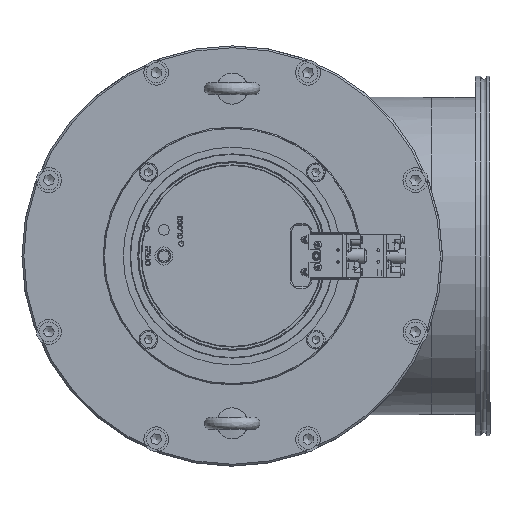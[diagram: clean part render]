
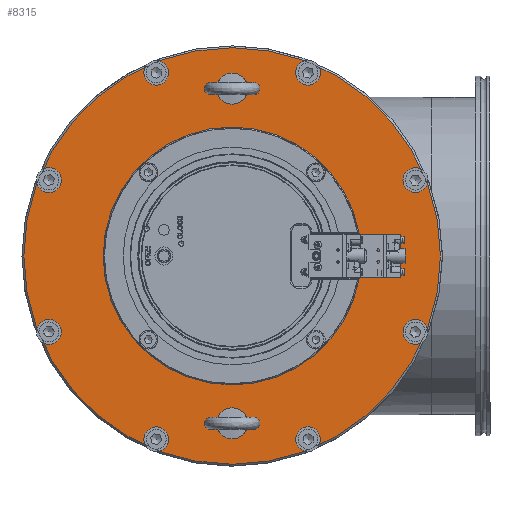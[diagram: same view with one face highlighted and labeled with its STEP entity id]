
A CAD part, left-side view. The second image highlights one B-rep face of the part: STEP entity #8315.
In plain terms, the highlighted planar face has unit normal (-1, 0, 0) as drawn and (0, 0, -1) by its records, which use the part's own axes.
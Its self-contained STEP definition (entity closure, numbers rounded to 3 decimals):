
#7593=FACE_BOUND('',#9950,.T.);
#7594=FACE_BOUND('',#9951,.T.);
#7595=FACE_BOUND('',#9952,.T.);
#7596=FACE_BOUND('',#9953,.T.);
#7597=FACE_BOUND('',#9954,.T.);
#7598=FACE_BOUND('',#9955,.T.);
#7599=FACE_BOUND('',#9956,.T.);
#7600=FACE_BOUND('',#9957,.T.);
#7601=FACE_BOUND('',#9958,.T.);
#7602=FACE_BOUND('',#9959,.T.);
#7603=FACE_BOUND('',#9960,.T.);
#7604=FACE_BOUND('',#9961,.T.);
#7605=FACE_BOUND('',#9962,.T.);
#7606=FACE_BOUND('',#9963,.T.);
#7607=FACE_BOUND('',#9964,.T.);
#7608=FACE_BOUND('',#9965,.T.);
#8315=ADVANCED_FACE('BCT_REF_50658',(#7593,#7594,#7595,#7596,#7597,#7598,
#7599,#7600,#7601,#7602,#7603,#7604,#7605,#7606,#7607,#7608),#8990,.F.);
#8990=PLANE('',#16966);
#9950=EDGE_LOOP('',(#11228));
#9951=EDGE_LOOP('',(#11229));
#9952=EDGE_LOOP('',(#11230));
#9953=EDGE_LOOP('',(#11231));
#9954=EDGE_LOOP('',(#11232));
#9955=EDGE_LOOP('',(#11233));
#9956=EDGE_LOOP('',(#11234));
#9957=EDGE_LOOP('',(#11235));
#9958=EDGE_LOOP('',(#11236));
#9959=EDGE_LOOP('',(#11237));
#9960=EDGE_LOOP('',(#11238));
#9961=EDGE_LOOP('',(#11239));
#9962=EDGE_LOOP('',(#11240));
#9963=EDGE_LOOP('',(#11241));
#9964=EDGE_LOOP('',(#11242));
#9965=EDGE_LOOP('',(#11243));
#11228=ORIENTED_EDGE('',*,*,#14900,.T.);
#11229=ORIENTED_EDGE('',*,*,#14901,.T.);
#11230=ORIENTED_EDGE('',*,*,#14902,.T.);
#11231=ORIENTED_EDGE('',*,*,#14903,.T.);
#11232=ORIENTED_EDGE('',*,*,#14904,.T.);
#11233=ORIENTED_EDGE('',*,*,#14905,.T.);
#11234=ORIENTED_EDGE('',*,*,#14906,.T.);
#11235=ORIENTED_EDGE('',*,*,#14907,.T.);
#11236=ORIENTED_EDGE('',*,*,#14908,.T.);
#11237=ORIENTED_EDGE('',*,*,#14909,.T.);
#11238=ORIENTED_EDGE('',*,*,#14910,.T.);
#11239=ORIENTED_EDGE('',*,*,#14911,.T.);
#11240=ORIENTED_EDGE('',*,*,#14912,.T.);
#11241=ORIENTED_EDGE('',*,*,#14913,.T.);
#11242=ORIENTED_EDGE('',*,*,#14914,.T.);
#11243=ORIENTED_EDGE('',*,*,#14915,.T.);
#13830=VERTEX_POINT('',#22994);
#13831=VERTEX_POINT('',#22996);
#13832=VERTEX_POINT('',#22998);
#13833=VERTEX_POINT('',#23000);
#13834=VERTEX_POINT('',#23002);
#13835=VERTEX_POINT('',#23004);
#13836=VERTEX_POINT('',#23006);
#13837=VERTEX_POINT('',#23008);
#13838=VERTEX_POINT('',#23010);
#13839=VERTEX_POINT('',#23012);
#13840=VERTEX_POINT('',#23014);
#13841=VERTEX_POINT('',#23016);
#13842=VERTEX_POINT('',#23018);
#13843=VERTEX_POINT('',#23020);
#13844=VERTEX_POINT('',#23022);
#13845=VERTEX_POINT('',#23024);
#14900=EDGE_CURVE('BCT_REF_75933',#13830,#13830,#16237,.T.);
#14901=EDGE_CURVE('BCT_REF_50675',#13831,#13831,#16238,.T.);
#14902=EDGE_CURVE('BCT_REF_50672',#13832,#13832,#16239,.T.);
#14903=EDGE_CURVE('BCT_REF_50642',#13833,#13833,#16240,.T.);
#14904=EDGE_CURVE('',#13834,#13834,#16241,.T.);
#14905=EDGE_CURVE('BCT_REF_50687',#13835,#13835,#16242,.T.);
#14906=EDGE_CURVE('',#13836,#13836,#16243,.T.);
#14907=EDGE_CURVE('',#13837,#13837,#16244,.T.);
#14908=EDGE_CURVE('',#13838,#13838,#16245,.T.);
#14909=EDGE_CURVE('',#13839,#13839,#16246,.T.);
#14910=EDGE_CURVE('',#13840,#13840,#16247,.T.);
#14911=EDGE_CURVE('',#13841,#13841,#16248,.T.);
#14912=EDGE_CURVE('',#13842,#13842,#16249,.T.);
#14913=EDGE_CURVE('',#13843,#13843,#16250,.T.);
#14914=EDGE_CURVE('',#13844,#13844,#16251,.T.);
#14915=EDGE_CURVE('',#13845,#13845,#16252,.T.);
#16237=CIRCLE('',#16950,168.);
#16238=CIRCLE('',#16951,88.75);
#16239=CIRCLE('',#16952,4.25);
#16240=CIRCLE('',#16953,4.25);
#16241=CIRCLE('',#16954,4.25);
#16242=CIRCLE('',#16955,4.25);
#16243=CIRCLE('',#16956,4.25);
#16244=CIRCLE('',#16957,4.25);
#16245=CIRCLE('',#16958,5.5);
#16246=CIRCLE('',#16959,5.5);
#16247=CIRCLE('',#16960,5.5);
#16248=CIRCLE('',#16961,5.5);
#16249=CIRCLE('',#16962,5.5);
#16250=CIRCLE('',#16963,5.5);
#16251=CIRCLE('',#16964,5.5);
#16252=CIRCLE('',#16965,5.5);
#16950=AXIS2_PLACEMENT_3D('',#22993,#18580,#18581);
#16951=AXIS2_PLACEMENT_3D('',#22995,#18582,#18583);
#16952=AXIS2_PLACEMENT_3D('',#22997,#18584,#18585);
#16953=AXIS2_PLACEMENT_3D('',#22999,#18586,#18587);
#16954=AXIS2_PLACEMENT_3D('',#23001,#18588,#18589);
#16955=AXIS2_PLACEMENT_3D('',#23003,#18590,#18591);
#16956=AXIS2_PLACEMENT_3D('',#23005,#18592,#18593);
#16957=AXIS2_PLACEMENT_3D('',#23007,#18594,#18595);
#16958=AXIS2_PLACEMENT_3D('',#23009,#18596,#18597);
#16959=AXIS2_PLACEMENT_3D('',#23011,#18598,#18599);
#16960=AXIS2_PLACEMENT_3D('',#23013,#18600,#18601);
#16961=AXIS2_PLACEMENT_3D('',#23015,#18602,#18603);
#16962=AXIS2_PLACEMENT_3D('',#23017,#18604,#18605);
#16963=AXIS2_PLACEMENT_3D('',#23019,#18606,#18607);
#16964=AXIS2_PLACEMENT_3D('',#23021,#18608,#18609);
#16965=AXIS2_PLACEMENT_3D('',#23023,#18610,#18611);
#16966=AXIS2_PLACEMENT_3D('',#23025,#18612,#18613);
#18580=DIRECTION('',(0.,0.,-1.));
#18581=DIRECTION('',(1.,0.,0.));
#18582=DIRECTION('',(0.,0.,1.));
#18583=DIRECTION('',(1.,0.,0.));
#18584=DIRECTION('',(0.,0.,1.));
#18585=DIRECTION('',(1.,0.,0.));
#18586=DIRECTION('',(0.,0.,1.));
#18587=DIRECTION('',(1.,0.,0.));
#18588=DIRECTION('',(0.,0.,1.));
#18589=DIRECTION('',(0.,-1.,0.));
#18590=DIRECTION('',(0.,0.,1.));
#18591=DIRECTION('',(-1.,0.,0.));
#18592=DIRECTION('',(0.,0.,1.));
#18593=DIRECTION('',(0.,1.,0.));
#18594=DIRECTION('',(0.,0.,1.));
#18595=DIRECTION('',(1.,0.,0.));
#18596=DIRECTION('',(0.,0.,1.));
#18597=DIRECTION('',(0.707,-0.707,0.));
#18598=DIRECTION('',(0.,0.,1.));
#18599=DIRECTION('',(0.,-1.,0.));
#18600=DIRECTION('',(0.,0.,1.));
#18601=DIRECTION('',(-0.707,-0.707,0.));
#18602=DIRECTION('',(0.,0.,1.));
#18603=DIRECTION('',(-1.,0.,0.));
#18604=DIRECTION('',(0.,0.,1.));
#18605=DIRECTION('',(-0.707,0.707,0.));
#18606=DIRECTION('',(0.,0.,1.));
#18607=DIRECTION('',(0.,1.,0.));
#18608=DIRECTION('',(0.,0.,1.));
#18609=DIRECTION('',(0.707,0.707,0.));
#18610=DIRECTION('',(0.,0.,1.));
#18611=DIRECTION('',(1.,0.,0.));
#18612=DIRECTION('',(0.,0.,1.));
#18613=DIRECTION('',(1.,0.,0.));
#22993=CARTESIAN_POINT('',(0.,0.,0.));
#22994=CARTESIAN_POINT('',(168.,0.,0.));
#22995=CARTESIAN_POINT('',(0.,0.,0.));
#22996=CARTESIAN_POINT('',(88.75,0.,0.));
#22997=CARTESIAN_POINT('',(0.,135.,0.));
#22998=CARTESIAN_POINT('',(4.25,135.,0.));
#22999=CARTESIAN_POINT('',(0.,-135.,0.));
#23000=CARTESIAN_POINT('',(4.25,-135.,0.));
#23001=CARTESIAN_POINT('',(-67.529,-67.529,0.));
#23002=CARTESIAN_POINT('',(-67.529,-71.779,0.));
#23003=CARTESIAN_POINT('',(-67.529,67.529,0.));
#23004=CARTESIAN_POINT('',(-71.779,67.529,0.));
#23005=CARTESIAN_POINT('',(67.529,67.529,0.));
#23006=CARTESIAN_POINT('',(67.529,71.779,0.));
#23007=CARTESIAN_POINT('',(67.529,-67.529,0.));
#23008=CARTESIAN_POINT('',(71.779,-67.529,0.));
#23009=CARTESIAN_POINT('',(61.229,-147.821,0.));
#23010=CARTESIAN_POINT('',(65.118,-151.71,0.));
#23011=CARTESIAN_POINT('',(-61.229,-147.821,0.));
#23012=CARTESIAN_POINT('',(-61.229,-153.321,0.));
#23013=CARTESIAN_POINT('',(-147.821,-61.229,0.));
#23014=CARTESIAN_POINT('',(-151.71,-65.118,0.));
#23015=CARTESIAN_POINT('',(-147.821,61.229,0.));
#23016=CARTESIAN_POINT('',(-153.321,61.229,0.));
#23017=CARTESIAN_POINT('',(-61.229,147.821,0.));
#23018=CARTESIAN_POINT('',(-65.118,151.71,0.));
#23019=CARTESIAN_POINT('',(61.229,147.821,0.));
#23020=CARTESIAN_POINT('',(61.229,153.321,0.));
#23021=CARTESIAN_POINT('',(147.821,61.229,0.));
#23022=CARTESIAN_POINT('',(151.71,65.118,0.));
#23023=CARTESIAN_POINT('',(147.821,-61.229,0.));
#23024=CARTESIAN_POINT('',(153.321,-61.229,0.));
#23025=CARTESIAN_POINT('',(169.5,0.,0.));
